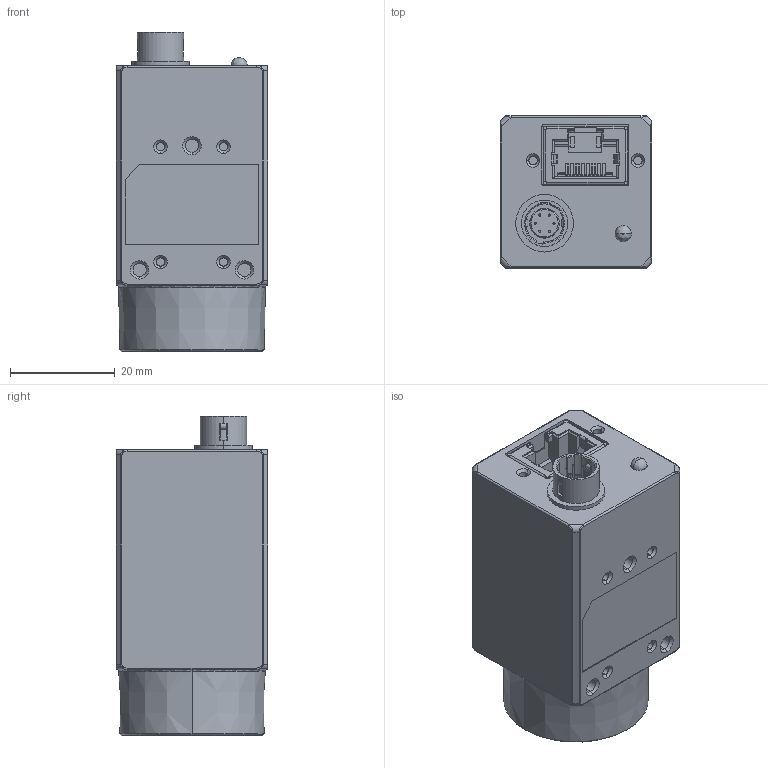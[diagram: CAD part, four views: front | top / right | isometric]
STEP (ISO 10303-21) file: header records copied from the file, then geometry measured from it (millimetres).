
FILE_DESCRIPTION((''),'2;1');
FILE_NAME('MV-600W-3D_2_1','2020-03-09T20:09:15',('wangyijun6'),(''),'CREO PARAMETRIC BY PTC INC, 2017260','CREO PARAMETRIC BY PTC INC, 2017260','');
FILE_SCHEMA(('CONFIG_CONTROL_DESIGN'));
Length unit declared in the file: millimetre
Products named in the file (1): MV-600W-3D_2_1
Bounding box: 29 x 29 x 60.88 mm (x, y, z)
Volume: 34032.5 mm3; surface area: 14310.1 mm2
Topology: 1 solids, 1 shells, 1196 faces, 3515 edges, 2292 vertices
Faces by surface type: plane 805, cylinder 322, bspline 36, cone 31, torus 2
Entity records: 41948 total; most frequent: CARTESIAN_POINT 10072, ORIENTED_EDGE 7030, DIRECTION 6217, EDGE_CURVE 3515, VECTOR 2541, LINE 2541, VERTEX_POINT 2292, AXIS2_PLACEMENT_3D 1838
